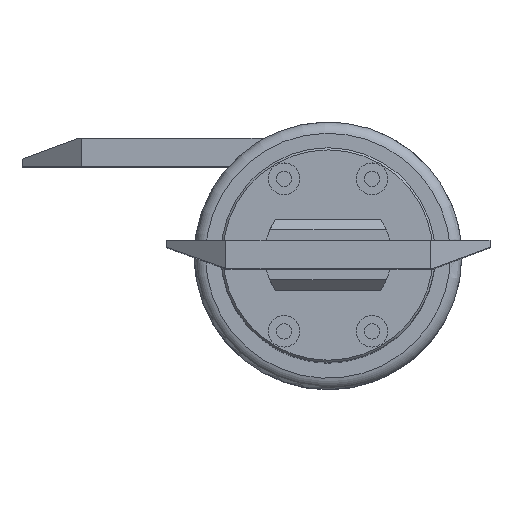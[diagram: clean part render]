
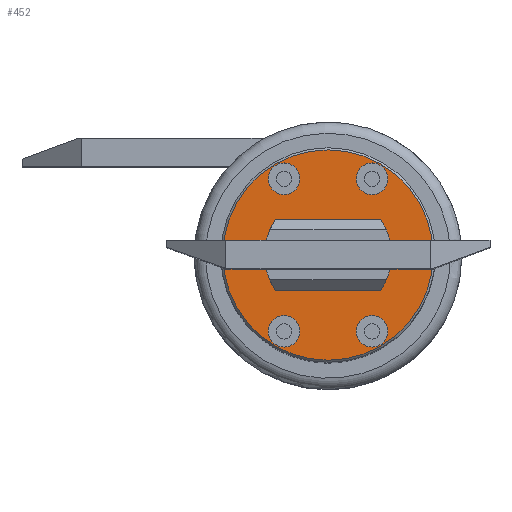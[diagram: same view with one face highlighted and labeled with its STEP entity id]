
A CAD part, top view. The second image highlights one B-rep face of the part: STEP entity #452.
In plain terms, the highlighted planar face has unit normal (0, 0, 1).
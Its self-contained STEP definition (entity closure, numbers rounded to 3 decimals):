
#452 = ADVANCED_FACE( '', ( #1234, #1235, #1236, #1237, #1238, #1239 ), #1240, .F. );
#1234 = FACE_OUTER_BOUND( '', #2446, .T. );
#1235 = FACE_BOUND( '', #2447, .T. );
#1236 = FACE_BOUND( '', #2448, .T. );
#1237 = FACE_BOUND( '', #2449, .T. );
#1238 = FACE_BOUND( '', #2450, .T. );
#1239 = FACE_BOUND( '', #2451, .T. );
#1240 = PLANE( '', #2452 );
#2446 = EDGE_LOOP( '', ( #4907 ) );
#2447 = EDGE_LOOP( '', ( #4908 ) );
#2448 = EDGE_LOOP( '', ( #4909 ) );
#2449 = EDGE_LOOP( '', ( #4910 ) );
#2450 = EDGE_LOOP( '', ( #4911 ) );
#2451 = EDGE_LOOP( '', ( #4912 ) );
#2452 = AXIS2_PLACEMENT_3D( '', #4913, #4914, #4915 );
#4907 = ORIENTED_EDGE( '', *, *, #6194, .T. );
#4908 = ORIENTED_EDGE( '', *, *, #6195, .F. );
#4909 = ORIENTED_EDGE( '', *, *, #6166, .F. );
#4910 = ORIENTED_EDGE( '', *, *, #6169, .F. );
#4911 = ORIENTED_EDGE( '', *, *, #5878, .F. );
#4912 = ORIENTED_EDGE( '', *, *, #6141, .F. );
#4913 = CARTESIAN_POINT( '', ( 20.469, -16.722, 86.008 ) );
#4914 = DIRECTION( '', ( 0., 0., -1. ) );
#4915 = DIRECTION( '', ( 0., 1., 0. ) );
#5878 = EDGE_CURVE( '', #7033, #7033, #7034, .T. );
#6141 = EDGE_CURVE( '', #7466, #7466, #7467, .T. );
#6166 = EDGE_CURVE( '', #7506, #7506, #7507, .T. );
#6169 = EDGE_CURVE( '', #7512, #7512, #7513, .T. );
#6194 = EDGE_CURVE( '', #7548, #7548, #7549, .T. );
#6195 = EDGE_CURVE( '', #7550, #7550, #7551, .T. );
#7033 = VERTEX_POINT( '', #9349 );
#7034 = CIRCLE( '', #9350, 2.25 );
#7466 = VERTEX_POINT( '', #10540 );
#7467 = CIRCLE( '', #10541, 2.25 );
#7506 = VERTEX_POINT( '', #10596 );
#7507 = CIRCLE( '', #10597, 2.25 );
#7512 = VERTEX_POINT( '', #10602 );
#7513 = CIRCLE( '', #10603, 2.25 );
#7548 = VERTEX_POINT( '', #10649 );
#7549 = CIRCLE( '', #10650, 14.94 );
#7550 = VERTEX_POINT( '', #10651 );
#7551 = CIRCLE( '', #10652, 5. );
#9349 = CARTESIAN_POINT( '', ( 24.469, -27.547, 86.008 ) );
#9350 = AXIS2_PLACEMENT_3D( '', #11322, #11323, #11324 );
#10540 = CARTESIAN_POINT( '', ( 11.969, -27.547, 86.008 ) );
#10541 = AXIS2_PLACEMENT_3D( '', #11700, #11701, #11702 );
#10596 = CARTESIAN_POINT( '', ( 16.469, -5.897, 86.008 ) );
#10597 = AXIS2_PLACEMENT_3D( '', #11743, #11744, #11745 );
#10602 = CARTESIAN_POINT( '', ( 28.969, -5.897, 86.008 ) );
#10603 = AXIS2_PLACEMENT_3D( '', #11752, #11753, #11754 );
#10649 = CARTESIAN_POINT( '', ( 35.409, -16.722, 86.008 ) );
#10650 = AXIS2_PLACEMENT_3D( '', #11805, #11806, #11807 );
#10651 = CARTESIAN_POINT( '', ( 25.469, -16.722, 86.008 ) );
#10652 = AXIS2_PLACEMENT_3D( '', #11808, #11809, #11810 );
#11322 = CARTESIAN_POINT( '', ( 26.719, -27.547, 86.008 ) );
#11323 = DIRECTION( '', ( 0., 0., 1. ) );
#11324 = DIRECTION( '', ( -1., 0., 0. ) );
#11700 = CARTESIAN_POINT( '', ( 14.219, -27.547, 86.008 ) );
#11701 = DIRECTION( '', ( 0., 0., 1. ) );
#11702 = DIRECTION( '', ( -1., 0., 0. ) );
#11743 = CARTESIAN_POINT( '', ( 14.219, -5.897, 86.008 ) );
#11744 = DIRECTION( '', ( 0., 0., 1. ) );
#11745 = DIRECTION( '', ( 1., 0., 0. ) );
#11752 = CARTESIAN_POINT( '', ( 26.719, -5.897, 86.008 ) );
#11753 = DIRECTION( '', ( 0., 0., 1. ) );
#11754 = DIRECTION( '', ( 1., 0., 0. ) );
#11805 = CARTESIAN_POINT( '', ( 20.469, -16.722, 86.008 ) );
#11806 = DIRECTION( '', ( 0., 0., 1. ) );
#11807 = DIRECTION( '', ( 1., 0., 0. ) );
#11808 = CARTESIAN_POINT( '', ( 20.469, -16.722, 86.008 ) );
#11809 = DIRECTION( '', ( 0., 0., 1. ) );
#11810 = DIRECTION( '', ( 1., 0., 0. ) );
